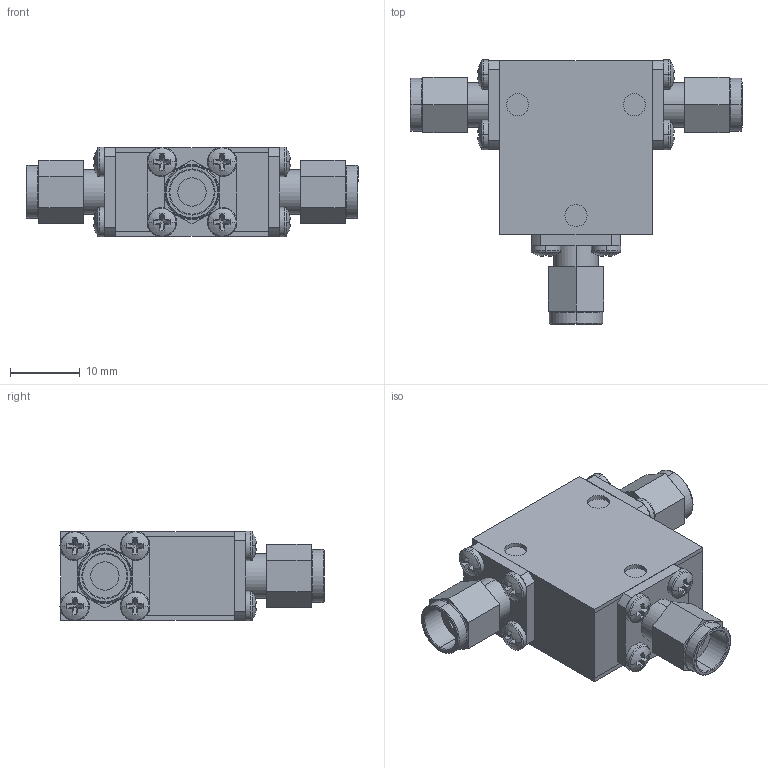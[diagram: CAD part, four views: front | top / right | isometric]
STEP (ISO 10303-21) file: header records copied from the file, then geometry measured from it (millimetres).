
FILE_DESCRIPTION (( 'STEP AP214' ), '1' );
FILE_NAME ('Package 4 Circ MMM.step', '2021-12-01T21:00:39', ( '' ), ( '' ), 'SwSTEP 2.0', 'SolidWorks 2016', '' );
FILE_SCHEMA (( 'AUTOMOTIVE_DESIGN' ));
Length unit declared in the file: inch
Products named in the file (5): Package 4 Circ MMM; Package Size 4; pan cross head_ai_CR-PHMS 0.086-56x0.125x0.125-N; Delta SMA-Male; Package 4
Assembly tree (17 placements, depth 2):
  Package 4 Circ MMM
    Package Size 4
    Package 4
    pan cross head_ai_CR-PHMS 0.086-56x0.125x0.125-N  x12
    Delta SMA-Male  x3
Bounding box: 47.6 x 37.86 x 12.88 mm (x, y, z)
Volume: 8766.3 mm3; surface area: 8332.7 mm2
Topology: 17 solids, 17 shells, 445 faces, 1014 edges, 624 vertices
Faces by surface type: plane 259, cylinder 120, torus 42, sphere 24
Entity records: 3248 total; most frequent: DIRECTION 584, CARTESIAN_POINT 504, ORIENTED_EDGE 472, EDGE_CURVE 236, AXIS2_PLACEMENT_3D 230, VERTEX_POINT 150, LINE 124, VECTOR 124
